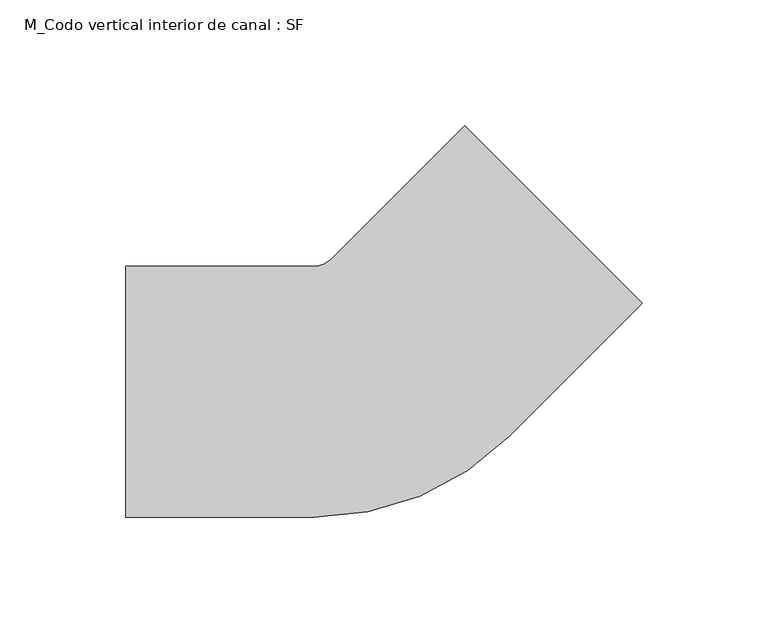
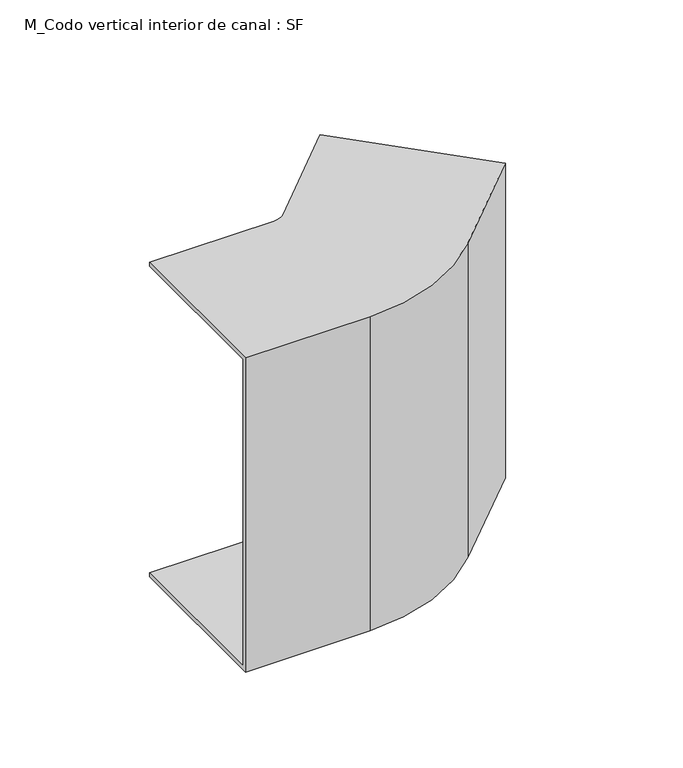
"""IFC4 building model written with IfcOpenShell, lengths in millimetres: cable carrier fitting geometry, M_Codo vertical interior de canal : SF."""

import ifcopenshell
import ifcopenshell.guid

model = None  # the IFC model being written
_history = None  # IfcOwnerHistory: only IFC2X3 demands one
_inside = {}  # id of a spatial element -> (the spatial element, [elements in it])
_under = {}  # id of a project, library or spatial element -> (it, [spatial elements below it])
_declared = {}  # id of a project -> (the project, [libraries it declares])
_typed = {}  # id of a type object -> (the type object, [elements of that type])
_made_of = {}  # id of a material, layer set ... -> (it, [elements and type objects made of it])


def new_model(schema):
    """Start an empty IFC model of exactly this schema.

    Asked for "IFC4X3", IfcOpenShell would pick the latest addendum, in which some entities
    have other attributes; the version numbers below select the first issue.
    IFC2X3 requires an IfcOwnerHistory on every rooted entity: one is made here for all.
    """
    global model, _history
    if schema == "IFC4X3":
        model = ifcopenshell.file(schema_version=(4, 3, 0, 0))
    else:
        model = ifcopenshell.file(schema=schema)
    _inside.clear()
    _under.clear()
    _declared.clear()
    _typed.clear()
    _made_of.clear()
    _history = None
    if model.schema == "IFC2X3":
        org = make("IfcOrganization", Name="unknown")
        user = make(
            "IfcPersonAndOrganization",
            ThePerson=make("IfcPerson", FamilyName="unknown"),
            TheOrganization=org,
        )
        app = make(
            "IfcApplication",
            ApplicationDeveloper=org,
            Version="unknown",
            ApplicationFullName="unknown",
            ApplicationIdentifier="unknown",
        )
        _history = make(
            "IfcOwnerHistory",
            OwningUser=user,
            OwningApplication=app,
            ChangeAction="ADDED",
            CreationDate=0,
        )
    return model


def make(cls, **values):
    """One entity of the class cls with the attributes given. An attribute that is None is left unset."""
    return model.create_entity(
        cls, **{name: value for name, value in values.items() if value is not None}
    )


def rooted(cls, **values):
    """An entity with a GlobalId (a new one), such as an element, a storey or a relation."""
    return make(cls, GlobalId=ifcopenshell.guid.new(), OwnerHistory=_history, **values)


def si_unit(unit_type, name, prefix=None):
    """IfcSIUnit, for example si_unit("LENGTHUNIT", "METRE", prefix="MILLI")."""
    return make("IfcSIUnit", UnitType=unit_type, Prefix=prefix, Name=name)


def assignment(units):
    """IfcUnitAssignment: the units of a project."""
    return None if units is None else make("IfcUnitAssignment", Units=units)


def point(xyz):
    """IfcCartesianPoint."""
    return None if xyz is None else make("IfcCartesianPoint", Coordinates=xyz)


def direction(xyz):
    """IfcDirection."""
    return None if xyz is None else make("IfcDirection", DirectionRatios=xyz)


def frame(location, z_axis=None, x_axis=None):
    """IfcAxis2Placement3D, a coordinate frame: its origin and axes. An axis left out is left unset."""
    return make(
        "IfcAxis2Placement3D",
        Location=point(location),
        Axis=direction(z_axis),
        RefDirection=direction(x_axis),
    )


def origin():
    """The frame at (0, 0, 0) with its axes left unset."""
    return frame((0.0, 0.0, 0.0))


def place(relative_to, where):
    """IfcLocalPlacement: puts the frame where relative to a parent placement (None: the world)."""
    return make(
        "IfcLocalPlacement", PlacementRelTo=relative_to, RelativePlacement=where
    )


def context(
    kind, dimensions, precision=None, world=None, true_north=None, identifier=None
):
    """IfcGeometricRepresentationContext, for example the 3D "Model" context."""
    return make(
        "IfcGeometricRepresentationContext",
        ContextIdentifier=identifier,
        ContextType=kind,
        CoordinateSpaceDimension=dimensions,
        Precision=precision,
        WorldCoordinateSystem=world,
        TrueNorth=true_north,
    )


def project(units=None, contexts=None):
    """IfcProject with its units and contexts."""
    return rooted(
        "IfcProject",
        Name="project",
        RepresentationContexts=contexts,
        UnitsInContext=assignment(units),
    )


def spatial(cls, under=None, at=None, **own):
    """A site, building, storey or space (cls), placed at a placement, below another one or the project."""
    s = rooted(cls, ObjectPlacement=at, **own)
    if under is not None:
        _under.setdefault(under.id(), (under, []))[1].append(s)
    return s


def polyline(points):
    """IfcPolyline through the points."""
    return make("IfcPolyline", Points=[point(p) for p in points])


def circle_curve(where, radius):
    """IfcCircle in the frame where."""
    return make("IfcCircle", Position=where, Radius=radius)


def shape(context_of_items, identifier, shape_type, items):
    """IfcShapeRepresentation: the items that make up one representation, for example the "Body"."""
    return make(
        "IfcShapeRepresentation",
        ContextOfItems=context_of_items,
        RepresentationIdentifier=identifier,
        RepresentationType=shape_type,
        Items=items,
    )


def source(mapping_origin, context_of_items, identifier, shape_type, items):
    """IfcRepresentationMap: a shape defined once, which mapped items show again and again."""
    return make(
        "IfcRepresentationMap",
        MappingOrigin=mapping_origin,
        MappedRepresentation=shape(context_of_items, identifier, shape_type, items),
    )


def transform(
    local_origin,
    x_axis=None,
    y_axis=None,
    z_axis=None,
    scale=None,
    scale2=None,
    scale3=None,
    uniform=True,
):
    """IfcCartesianTransformationOperator3D, or its non-uniform kind. x_axis, y_axis, z_axis: its Axis1, 2, 3."""
    if uniform:
        return make(
            "IfcCartesianTransformationOperator3D",
            Axis1=direction(x_axis),
            Axis2=direction(y_axis),
            LocalOrigin=point(local_origin),
            Scale=scale,
            Axis3=direction(z_axis),
        )
    return make(
        "IfcCartesianTransformationOperator3DnonUniform",
        Axis1=direction(x_axis),
        Axis2=direction(y_axis),
        LocalOrigin=point(local_origin),
        Scale=scale,
        Axis3=direction(z_axis),
        Scale2=scale2,
        Scale3=scale3,
    )


def mapped(mapping_source, mapping_target):
    """IfcMappedItem: shows the shape of a source again, moved by a transform."""
    return make(
        "IfcMappedItem", MappingSource=mapping_source, MappingTarget=mapping_target
    )


def made_of(thing, what):
    """Note that an element or type object is made of a material, layer set ...; save() writes the relation."""
    if what is not None:
        _made_of.setdefault(what.id(), (what, []))[1].append(thing)
    return thing


def element(
    cls,
    number,
    at=None,
    inside=None,
    cuts=None,
    type_object=None,
    material=None,
    context=None,
    identifier="Body",
    shape_type=None,
    held_by="IfcProductDefinitionShape",
    body=None,
    shapes=None,
    **own,
):
    """One element of the class cls, such as IfcWall. Its Tag is "e" and its number.

    at: its placement. inside: the storey or other place that contains it. cuts: it is an
    opening in that element (IfcRelVoidsElement). A single representation is given by context,
    identifier, shape_type and body (its items); several are given by shapes. held_by: the class
    of the entity that holds the representations. save() writes the other relations.
    """
    e = rooted(cls, Tag="e%d" % number, ObjectPlacement=at, **own)
    if body is not None:
        shapes = [shape(context, identifier, shape_type, body)]
    if shapes is not None:
        e.Representation = make(held_by, Representations=shapes)
    if inside is not None:
        _inside.setdefault(inside.id(), (inside, []))[1].append(e)
    if cuts is not None:
        rooted(
            "IfcRelVoidsElement", RelatingBuildingElement=cuts, RelatedOpeningElement=e
        )
    if type_object is not None:
        _typed.setdefault(type_object.id(), (type_object, []))[1].append(e)
    return made_of(e, material)


def aggregate(whole, parts):
    """IfcRelAggregates: a whole, such as a stair, and the parts it consists of."""
    return rooted("IfcRelAggregates", RelatingObject=whole, RelatedObjects=parts)


def save(model, path):
    """Write the relations noted so far, then the file.

    IfcRelAggregates (storeys below a building ...), IfcRelContainedInSpatialStructure (elements
    in a storey), IfcRelDefinesByType, IfcRelAssociatesMaterial and IfcRelDeclares: one each for
    every whole, place, type object, material and project.
    """
    for whole, parts in _under.values():
        aggregate(whole, parts)
    for where, things in _inside.values():
        rooted(
            "IfcRelContainedInSpatialStructure",
            RelatedElements=things,
            RelatingStructure=where,
        )
    for kind, things in _typed.values():
        rooted("IfcRelDefinesByType", RelatedObjects=things, RelatingType=kind)
    for what, things in _made_of.values():
        rooted("IfcRelAssociatesMaterial", RelatedObjects=things, RelatingMaterial=what)
    for by, libraries in _declared.values():
        rooted("IfcRelDeclares", RelatingContext=by, RelatedDefinitions=libraries)
    model.write(path)


def plane_surface(at):
    """IfcPlane: the flat surface through the origin of the frame at, square to its z axis."""
    return make("IfcPlane", Position=at)


def cylinder_surface(at, radius):
    """IfcCylindricalSurface: all points at the distance radius from the z axis of the frame at."""
    return make("IfcCylindricalSurface", Position=at, Radius=radius)


def revolved_surface(curve, axis_point, axis_direction):
    """IfcSurfaceOfRevolution: the curve turned about the line through axis_point along axis_direction."""
    return make(
        "IfcSurfaceOfRevolution",
        SweptCurve=make("IfcArbitraryOpenProfileDef", ProfileType="CURVE", Curve=curve),
        AxisPosition=make("IfcAxis1Placement", Location=point(axis_point), Axis=direction(axis_direction)),
    )


def advanced_brep(points, edges, surfaces, faces):
    """IfcAdvancedBrep: a solid bounded by faces that lie on surfaces and meet in shared edges.

    An edge is (start, end): straight between two places in points (the first is 0);
    or (start, end, curve); or (start, end, curve, False) where it runs against its curve.
    A face is (place in surfaces, loops), or (place, loops, False) where it looks against
    its surface's normal. A loop lists edges by number (the first is 1), with a minus sign
    where the edge is run from its end to its start. The first loop is the outer one.
    """
    corners = [point(p) for p in points]
    vertices = [make("IfcVertexPoint", VertexGeometry=c) for c in corners]
    made = []
    for start, end, *more in edges:
        made.append(
            make(
                "IfcEdgeCurve",
                EdgeStart=vertices[start],
                EdgeEnd=vertices[end],
                EdgeGeometry=more[0] if more else make("IfcPolyline", Points=[corners[start], corners[end]]),
                SameSense=more[1] if len(more) > 1 else True,
            )
        )
    hull = []
    for where, loops, *sense in faces:
        bounds = []
        for j, loop in enumerate(loops):
            ring = [make("IfcOrientedEdge", EdgeElement=made[abs(k) - 1], Orientation=k > 0) for k in loop]
            bounds.append(
                make(
                    "IfcFaceOuterBound" if j == 0 else "IfcFaceBound",
                    Bound=make("IfcEdgeLoop", EdgeList=ring),
                    Orientation=True,
                )
            )
        hull.append(make("IfcAdvancedFace", Bounds=bounds, FaceSurface=surfaces[where], SameSense=sense[0] if sense else True))
    return make("IfcAdvancedBrep", Outer=make("IfcClosedShell", CfsFaces=hull))


def m_codo_vertical_interior_de_canal_sf_1a39cf6d(model_context):
    return source(origin(), model_context, "Body", "AdvancedBrep", [
        advanced_brep(
        [(-99.8528137, 50.0, 100.0), (-99.8528137, 50.0, 97.46), (-99.8528137, -47.46, 97.46), (-99.8528137, -47.46, -97.46), (-99.8528137, 50.0, -97.46), (-99.8528137, 50.0, -100.0), (-99.8528137, -50.0, -100.0), (-99.8528137, -50.0, 100.0), (35.2512627, 105.9619408, 100.0), (105.9619408, 35.2512627, 100.0), (105.9619408, 35.2512627, -100.0), (35.2512627, 105.9619408, -100.0), (35.2512627, 105.9619408, -97.46), (104.1658896, 37.0473139, -97.46), (104.1658896, 37.0473139, 97.46), (35.2512627, 105.9619408, 97.46), (-24.8528137, -50.0, 100.0), (52.9289322, -17.7817459, 100.0), (-17.7817459, 52.9289322, 100.0), (-24.8528137, 50.0, 100.0), (-24.8528137, -50.0, -100.0), (-24.8528137, 50.0, -100.0), (-17.7817459, 52.9289322, -100.0), (52.9289322, -17.7817459, -100.0), (-24.8528137, 50.0, -97.46), (-24.8528137, -47.46, -97.46), (51.132881, -15.9856947, -97.46), (-17.7817459, 52.9289322, -97.46), (-24.8528137, -47.46, 97.46), (-24.8528137, 50.0, 97.46), (-17.7817459, 52.9289322, 97.46), (51.132881, -15.9856947, 97.46)],
        [
            (0, 1),
            (1, 2),
            (2, 3),
            (3, 4),
            (4, 5),
            (5, 6),
            (6, 7),
            (7, 0),
            (8, 9),
            (9, 10),
            (10, 11),
            (11, 12),
            (12, 13),
            (13, 14),
            (14, 15),
            (15, 8),
            (7, 16),
            (16, 17, circle_curve(frame((-24.8528137, 60.0, 100.0), z_axis=(0.0, 0.0, 1.0), x_axis=(0.0, -1.0, 0.0)), 110.0)),
            (17, 9),
            (8, 18),
            (18, 19, circle_curve(frame((-24.8528137, 60.0, 100.0), z_axis=(0.0, 0.0, -1.0), x_axis=(0.0, -1.0, 0.0)), 10.0)),
            (19, 0),
            (6, 20),
            (20, 16),
            (5, 21),
            (21, 22, circle_curve(frame((-24.8528137, 60.0, -100.0), z_axis=(0.0, 0.0, 1.0), x_axis=(0.0, -1.0, 0.0)), 10.0)),
            (22, 11),
            (10, 23),
            (23, 20, circle_curve(frame((-24.8528137, 60.0, -100.0), z_axis=(0.0, 0.0, -1.0), x_axis=(0.0, -1.0, 0.0)), 110.0)),
            (4, 24),
            (24, 21),
            (3, 25),
            (25, 26, circle_curve(frame((-24.8528137, 60.0, -97.46), z_axis=(0.0, 0.0, 1.0), x_axis=(0.0, -1.0, 0.0)), 107.46)),
            (26, 13),
            (12, 27),
            (27, 24, circle_curve(frame((-24.8528137, 60.0, -97.46), z_axis=(0.0, 0.0, -1.0), x_axis=(0.0, -1.0, 0.0)), 10.0)),
            (2, 28),
            (28, 25),
            (1, 29),
            (29, 30, circle_curve(frame((-24.8528137, 60.0, 97.46), z_axis=(0.0, 0.0, 1.0), x_axis=(0.0, -1.0, 0.0)), 10.0)),
            (30, 15),
            (14, 31),
            (31, 28, circle_curve(frame((-24.8528137, 60.0, 97.46), z_axis=(0.0, 0.0, -1.0), x_axis=(0.0, -1.0, 0.0)), 107.46)),
            (19, 29),
            (23, 17),
            (27, 22),
            (31, 26),
            (18, 30),
        ],
        [
            plane_surface(frame((-99.8528137, 0.0, 0.0), z_axis=(-1.0, 0.0, 0.0), x_axis=(0.0, 0.0, 1.0))),
            plane_surface(frame((70.6066017, 70.6066017, 0.0), z_axis=(0.7071067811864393, 0.7071067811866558, 0.0), x_axis=(0.0, 0.0, 1.0))),
            plane_surface(frame((-99.8528137, -50.0, 100.0), z_axis=(0.0, 0.0, 1.0), x_axis=(1.0, 0.0, 0.0))),
            plane_surface(frame((-99.8528137, -50.0, -100.0), z_axis=(0.0, -1.0, 0.0), x_axis=(1.0, 0.0, 0.0))),
            plane_surface(frame((-99.8528137, 50.0, -100.0), z_axis=(0.0, 0.0, -1.0), x_axis=(1.0, 0.0, 0.0))),
            plane_surface(frame((-99.8528137, 50.0, -97.46), z_axis=(0.0, 1.0, 0.0), x_axis=(1.0, 0.0, 0.0))),
            plane_surface(frame((-99.8528137, -47.46, -97.46), z_axis=(0.0, 0.0, 1.0), x_axis=(1.0, 0.0, 0.0))),
            plane_surface(frame((-99.8528137, -47.46, 97.46), z_axis=(0.0, 1.0, 0.0), x_axis=(1.0, 0.0, 0.0))),
            plane_surface(frame((-99.8528137, 50.0, 97.46), z_axis=(0.0, 0.0, -1.0), x_axis=(1.0, 0.0, 0.0))),
            plane_surface(frame((-99.8528137, 50.0, 100.0), z_axis=(0.0, 1.0, 0.0), x_axis=(1.0, 0.0, 0.0))),
            cylinder_surface(frame((-24.8528137, 60.0, 0.0), z_axis=(0.0, 0.0, 1.0), x_axis=(0.0, -1.0, 0.0)), 110.0),
            revolved_surface(polyline([(-24.8528137, 50.0, -97.46), (-24.8528137, 50.0, -100.0)]), (-24.8528137, 60.0, 0.0), (0.0, 0.0, 1.0)),
            revolved_surface(polyline([(-24.8528137, -47.459999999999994, 97.46), (-24.8528137, -47.459999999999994, -97.46)]), (-24.8528137, 60.0, 0.0), (0.0, 0.0, 1.0)),
            revolved_surface(polyline([(-24.8528137, 50.0, 100.0), (-24.8528137, 50.0, 97.46)]), (-24.8528137, 60.0, 0.0), (0.0, 0.0, 1.0)),
            plane_surface(frame((52.9289322, -17.7817459, -100.0), z_axis=(0.7071067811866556, -0.7071067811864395, 0.0), x_axis=(0.7071067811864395, 0.7071067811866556, 0.0))),
            plane_surface(frame((-17.7817459, 52.9289322, -97.46), z_axis=(-0.7071067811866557, 0.7071067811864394, 0.0), x_axis=(0.7071067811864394, 0.7071067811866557, 0.0))),
            plane_surface(frame((51.132881, -15.9856947, 97.46), z_axis=(-0.7071067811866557, 0.7071067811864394, 0.0), x_axis=(0.7071067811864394, 0.7071067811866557, 0.0))),
            plane_surface(frame((-17.7817459, 52.9289322, 100.0), z_axis=(-0.7071067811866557, 0.7071067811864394, 0.0), x_axis=(0.7071067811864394, 0.7071067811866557, 0.0))),
        ],
        [
            (0, [[1, 2, 3, 4, 5, 6, 7, 8]]),
            (1, [[9, 10, 11, 12, 13, 14, 15, 16]]),
            (2, [[-8, 17, 18, 19, -9, 20, 21, 22]]),
            (3, [[-7, 23, 24, -17]]),
            (4, [[-6, 25, 26, 27, -11, 28, 29, -23]]),
            (5, [[-5, 30, 31, -25]]),
            (6, [[-4, 32, 33, 34, -13, 35, 36, -30]]),
            (7, [[-3, 37, 38, -32]]),
            (8, [[-2, 39, 40, 41, -15, 42, 43, -37]]),
            (9, [[-1, -22, 44, -39]]),
            (10, [[-18, -24, -29, 45]]),
            (11, [[-26, -31, -36, 46]]),
            (12, [[-33, -38, -43, 47]]),
            (13, [[-40, -44, -21, 48]]),
            (14, [[-45, -28, -10, -19]]),
            (15, [[-46, -35, -12, -27]]),
            (16, [[-47, -42, -14, -34]]),
            (17, [[-48, -20, -16, -41]]),
        ],
    ),
    ])


if __name__ == "__main__":
    model = new_model("IFC4")
    model_context = context("Model", 3, world=origin())
    ifc_project = project(units=[si_unit("LENGTHUNIT", "METRE", prefix="MILLI")], contexts=[model_context])
    site = spatial("IfcSite", under=ifc_project)
    building = spatial("IfcBuilding", under=site)
    placement = place(None, origin())
    m_codo_vertical_interior_de_canal_sf_shape = m_codo_vertical_interior_de_canal_sf_1a39cf6d(model_context)
    element("IfcCableCarrierFitting", 1, ObjectType="M_Codo vertical interior de canal : SF", at=placement, inside=building, context=model_context, shape_type="MappedRepresentation", body=[
        mapped(m_codo_vertical_interior_de_canal_sf_shape, transform((0.0, 0.0, 0.0), x_axis=(1.0, 0.0, 0.0), y_axis=(0.0, 1.0, 0.0), z_axis=(0.0, 0.0, 1.0))),
    ])
    save(model, "model.ifc")
